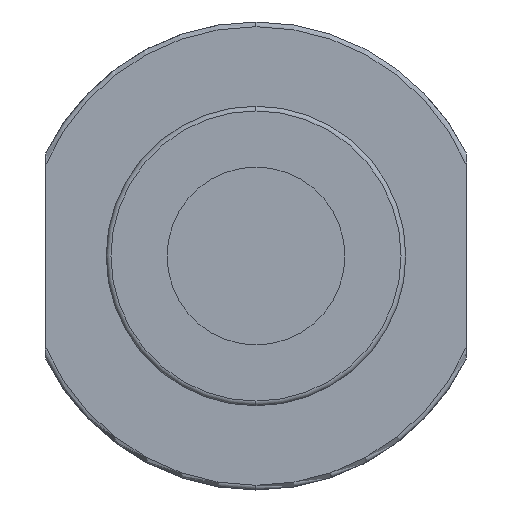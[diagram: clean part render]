
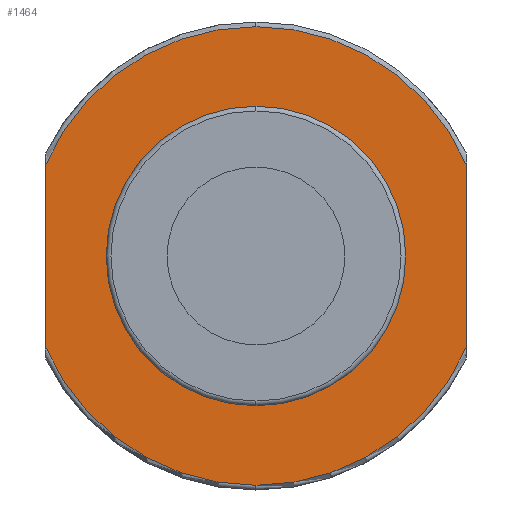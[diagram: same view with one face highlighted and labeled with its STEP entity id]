
A CAD part, left-side view. The second image highlights one B-rep face of the part: STEP entity #1464.
In plain terms, the highlighted planar face has unit normal (-1, 0, 0).
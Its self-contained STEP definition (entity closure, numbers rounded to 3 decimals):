
#17 = DIRECTION ( 'NONE',  ( 0., 1., 0. ) ) ;
#19 = CIRCLE ( 'NONE', #1043, 24.5 ) ;
#49 = EDGE_CURVE ( 'NONE', #85, #1291, #882, .T. ) ;
#66 = CARTESIAN_POINT ( 'NONE',  ( 38., 16., 0. ) ) ;
#85 = VERTEX_POINT ( 'NONE', #1100 ) ;
#108 = CARTESIAN_POINT ( 'NONE',  ( 38., 0., 0. ) ) ;
#134 = DIRECTION ( 'NONE',  ( 0., 0., -1. ) ) ;
#150 = EDGE_CURVE ( 'NONE', #1383, #1525, #1217, .T. ) ;
#177 = CIRCLE ( 'NONE', #1130, 24.5 ) ;
#184 = ORIENTED_EDGE ( 'NONE', *, *, #839, .F. ) ;
#205 = EDGE_CURVE ( 'NONE', #1594, #1138, #654, .T. ) ;
#256 = DIRECTION ( 'NONE',  ( 1., 0., 0. ) ) ;
#269 = DIRECTION ( 'NONE',  ( 0., 1., 0. ) ) ;
#271 = ORIENTED_EDGE ( 'NONE', *, *, #205, .F. ) ;
#301 = FACE_OUTER_BOUND ( 'NONE', #752, .T. ) ;
#326 = DIRECTION ( 'NONE',  ( 0., 1., 0. ) ) ;
#350 = EDGE_CURVE ( 'NONE', #1594, #1552, #923, .T. ) ;
#367 = CARTESIAN_POINT ( 'NONE',  ( 38., 0., 0. ) ) ;
#375 = CARTESIAN_POINT ( 'NONE',  ( 38., 0., 0. ) ) ;
#396 = CARTESIAN_POINT ( 'NONE',  ( 38., 0., 24.5 ) ) ;
#415 = DIRECTION ( 'NONE',  ( 0., 0., 1. ) ) ;
#426 = VECTOR ( 'NONE', #134, 1000. ) ;
#432 = CARTESIAN_POINT ( 'NONE',  ( 38., 0., 0. ) ) ;
#450 = AXIS2_PLACEMENT_3D ( 'NONE', #1868, #1437, #415 ) ;
#518 = EDGE_LOOP ( 'NONE', ( #1735, #1822 ) ) ;
#547 = CARTESIAN_POINT ( 'NONE',  ( 38., -16., 0. ) ) ;
#608 = DIRECTION ( 'NONE',  ( 0., 1., 0. ) ) ;
#610 = EDGE_CURVE ( 'NONE', #85, #1117, #1381, .T. ) ;
#632 = DIRECTION ( 'NONE',  ( 1., 0., 0. ) ) ;
#654 = CIRCLE ( 'NONE', #1765, 24.5 ) ;
#744 = CARTESIAN_POINT ( 'NONE',  ( 38., 22.5, 9.695 ) ) ;
#752 = EDGE_LOOP ( 'NONE', ( #1471, #184, #271, #1777, #1501, #815 ) ) ;
#758 = FACE_BOUND ( 'NONE', #518, .T. ) ;
#809 = AXIS2_PLACEMENT_3D ( 'NONE', #1602, #632, #326 ) ;
#815 = ORIENTED_EDGE ( 'NONE', *, *, #610, .F. ) ;
#832 = CIRCLE ( 'NONE', #809, 16. ) ;
#839 = EDGE_CURVE ( 'NONE', #1138, #1291, #19, .T. ) ;
#882 = LINE ( 'NONE', #1090, #1526 ) ;
#923 = LINE ( 'NONE', #1446, #426 ) ;
#977 = EDGE_CURVE ( 'NONE', #1117, #1552, #177, .T. ) ;
#987 = PLANE ( 'NONE',  #450 ) ;
#996 = CARTESIAN_POINT ( 'NONE',  ( 38., 0., -24.5 ) ) ;
#1043 = AXIS2_PLACEMENT_3D ( 'NONE', #432, #1596, #17 ) ;
#1090 = CARTESIAN_POINT ( 'NONE',  ( 38., -22.5, 0. ) ) ;
#1100 = CARTESIAN_POINT ( 'NONE',  ( 38., -22.5, -9.695 ) ) ;
#1117 = VERTEX_POINT ( 'NONE', #996 ) ;
#1130 = AXIS2_PLACEMENT_3D ( 'NONE', #1638, #1775, #608 ) ;
#1138 = VERTEX_POINT ( 'NONE', #396 ) ;
#1217 = CIRCLE ( 'NONE', #1443, 16. ) ;
#1222 = EDGE_CURVE ( 'NONE', #1525, #1383, #832, .T. ) ;
#1252 = DIRECTION ( 'NONE',  ( 0., 0., 1. ) ) ;
#1291 = VERTEX_POINT ( 'NONE', #1480 ) ;
#1350 = AXIS2_PLACEMENT_3D ( 'NONE', #375, #1549, #1813 ) ;
#1381 = CIRCLE ( 'NONE', #1350, 24.5 ) ;
#1383 = VERTEX_POINT ( 'NONE', #66 ) ;
#1437 = DIRECTION ( 'NONE',  ( -1., 0., 0. ) ) ;
#1443 = AXIS2_PLACEMENT_3D ( 'NONE', #367, #1529, #1810 ) ;
#1446 = CARTESIAN_POINT ( 'NONE',  ( 38., 22.5, 0. ) ) ;
#1464 = ADVANCED_FACE ( 'NONE', ( #301, #758 ), #987, .T. ) ;
#1471 = ORIENTED_EDGE ( 'NONE', *, *, #49, .T. ) ;
#1480 = CARTESIAN_POINT ( 'NONE',  ( 38., -22.5, 9.695 ) ) ;
#1501 = ORIENTED_EDGE ( 'NONE', *, *, #977, .F. ) ;
#1525 = VERTEX_POINT ( 'NONE', #547 ) ;
#1526 = VECTOR ( 'NONE', #1252, 1000. ) ;
#1529 = DIRECTION ( 'NONE',  ( 1., 0., 0. ) ) ;
#1549 = DIRECTION ( 'NONE',  ( 1., 0., 0. ) ) ;
#1552 = VERTEX_POINT ( 'NONE', #1818 ) ;
#1594 = VERTEX_POINT ( 'NONE', #744 ) ;
#1596 = DIRECTION ( 'NONE',  ( 1., 0., 0. ) ) ;
#1602 = CARTESIAN_POINT ( 'NONE',  ( 38., 0., 0. ) ) ;
#1638 = CARTESIAN_POINT ( 'NONE',  ( 38., 0., 0. ) ) ;
#1735 = ORIENTED_EDGE ( 'NONE', *, *, #150, .T. ) ;
#1765 = AXIS2_PLACEMENT_3D ( 'NONE', #108, #256, #269 ) ;
#1775 = DIRECTION ( 'NONE',  ( 1., 0., 0. ) ) ;
#1777 = ORIENTED_EDGE ( 'NONE', *, *, #350, .T. ) ;
#1810 = DIRECTION ( 'NONE',  ( 0., 1., 0. ) ) ;
#1813 = DIRECTION ( 'NONE',  ( 0., 1., 0. ) ) ;
#1818 = CARTESIAN_POINT ( 'NONE',  ( 38., 22.5, -9.695 ) ) ;
#1822 = ORIENTED_EDGE ( 'NONE', *, *, #1222, .T. ) ;
#1868 = CARTESIAN_POINT ( 'NONE',  ( 38., 20.25, 0. ) ) ;
